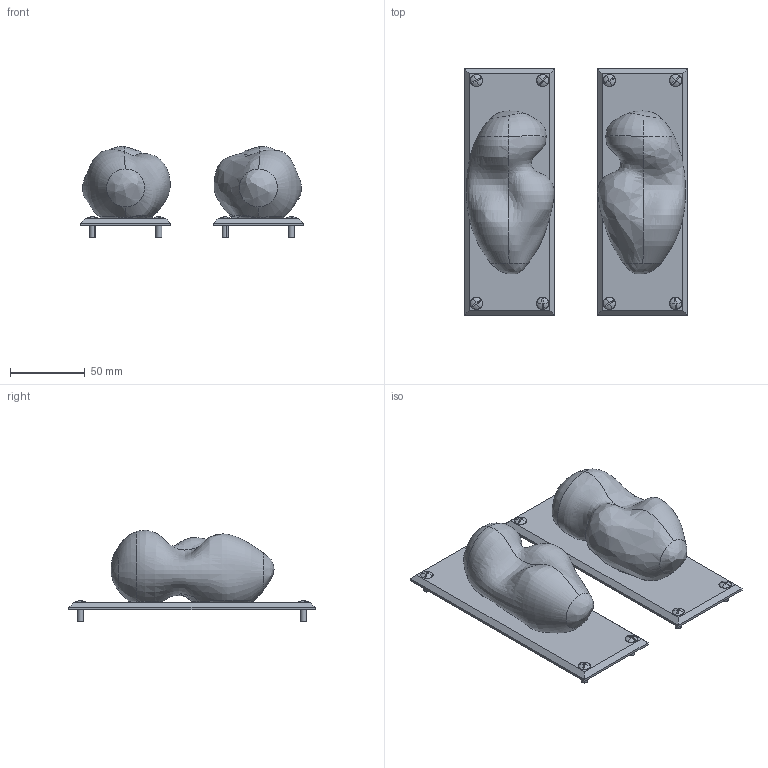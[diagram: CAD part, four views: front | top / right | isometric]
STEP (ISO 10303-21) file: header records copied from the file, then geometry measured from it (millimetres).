
FILE_DESCRIPTION (( 'STEP AP214' ), '1' );
FILE_NAME ('Anna Karlin - Wilder Pull - Backplates.STEP', '2026-05-08T19:17:35', ( '' ), ( '' ), 'SwSTEP 2.0', 'SolidWorks 2023', '' );
FILE_SCHEMA (( 'AUTOMOTIVE_DESIGN' ));
Length unit declared in the file: inch
Products named in the file (5): 91700A194_Brass Slotted Oval Head Screws_No Threads; Anna Karlin - Wilder Pull - Backplates; Custom Door Knob 2_Knob - Left; WLDR_Door-Pull-Plate; Custom Door Knob 2_Knob - Right
Assembly tree (12 placements, depth 2):
  Anna Karlin - Wilder Pull - Backplates
    Custom Door Knob 2_Knob - Right
    WLDR_Door-Pull-Plate  x2
    91700A194_Brass Slotted Oval Head Screws_No Threads  x8
    Custom Door Knob 2_Knob - Left
Bounding box: 149.22 x 165.1 x 61.11 mm (x, y, z)
Volume: 260294.9 mm3; surface area: 99368.4 mm2
Topology: 12 solids, 12 shells, 272 faces, 631 edges, 388 vertices
Faces by surface type: plane 60, bspline 60, cone 56, cylinder 48, sphere 32, torus 16
Entity records: 473630 total; most frequent: CARTESIAN_POINT 470951, ORIENTED_EDGE 592, DIRECTION 370, EDGE_CURVE 296, VERTEX_POINT 182, B_SPLINE_CURVE_WITH_KNOTS 164, AXIS2_PLACEMENT_3D 155, EDGE_LOOP 146
